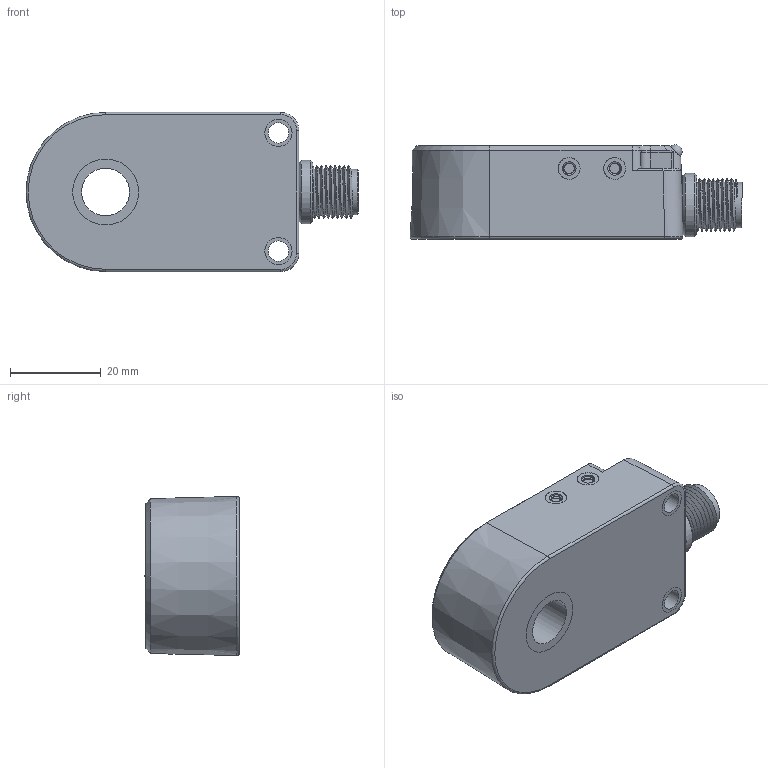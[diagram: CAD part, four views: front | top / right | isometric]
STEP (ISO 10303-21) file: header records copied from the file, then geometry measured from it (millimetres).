
FILE_DESCRIPTION(/* description */ (''),/* implementation_level */ '2;1');
FILE_NAME(/* name */ 'F:\HUAYIFENG\02)HUAYIFENG_3D_MODE\新环型\newhuanxing\3D_PC\PC10-C2.stp',/* time_stamp */ '2019-06-19T19:43:06+08:00',/* author */ ('fengjiarun'),/* organization */ (''),/* preprocessor_version */ 'ST-DEVELOPER v16.5',/* originating_system */ 'Autodesk Inventor 2017',/* authorisation */ '');
FILE_SCHEMA (('AUTOMOTIVE_DESIGN { 1 0 10303 214 3 1 1 }'));
Length unit declared in the file: millimetre
Products named in the file (1): 零件11
Bounding box: 72.99 x 20.73 x 35 mm (x, y, z)
Volume: 36437.2 mm3; surface area: 10352.8 mm2
Topology: 1 solids, 2 shells, 210 faces, 505 edges, 322 vertices
Faces by surface type: plane 70, cylinder 62, bspline 53, torus 18, cone 5, sphere 2
Full cylindrical faces by diameter (mm): 1.5 x4, 3 x3, 3.05 x1, 4.5 x2, 4.8 x2, 8 x1, 10 x1, 10.5 x1, 12.1 x1, 14 x1, 14.5 x1
Entity records: 11968 total; most frequent: CARTESIAN_POINT 7290, ORIENTED_EDGE 924, DIRECTION 843, EDGE_CURVE 462, AXIS2_PLACEMENT_3D 341, VERTEX_POINT 304, EDGE_LOOP 262, STYLED_ITEM 209
